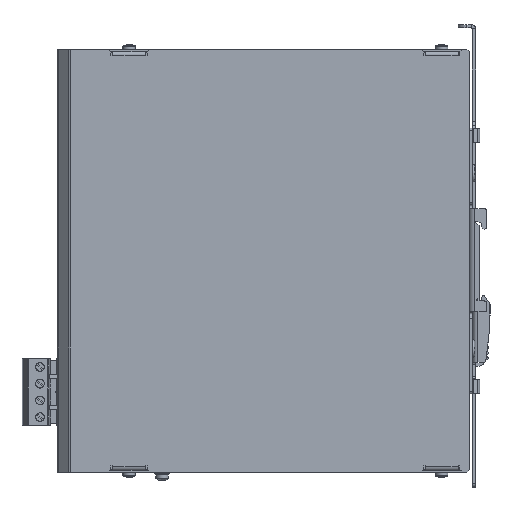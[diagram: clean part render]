
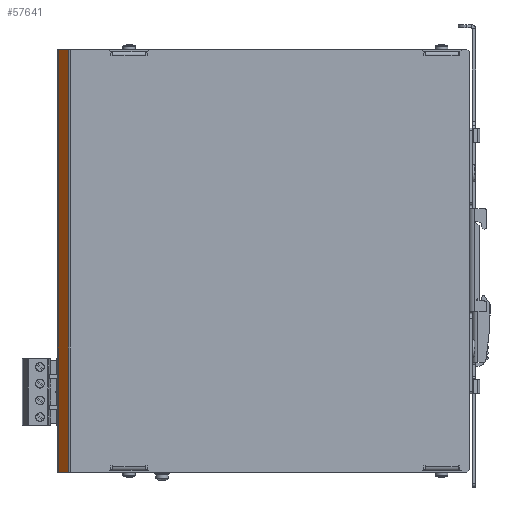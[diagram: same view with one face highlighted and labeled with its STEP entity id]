
A CAD part, left-side view. The second image highlights one B-rep face of the part: STEP entity #57641.
In plain terms, the highlighted planar face has unit normal (-0.707, 0.707, 0).
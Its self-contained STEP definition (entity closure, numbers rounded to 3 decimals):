
#4923=PLANE('',#61378);
#7115=FACE_OUTER_BOUND('',#10469,.T.);
#10469=EDGE_LOOP('',(#44750,#44751,#44752,#44753));
#15134=LINE('',#82450,#21325);
#15141=LINE('',#82467,#21332);
#15143=LINE('',#82473,#21334);
#15147=LINE('',#82486,#21338);
#21325=VECTOR('',#68306,10.);
#21332=VECTOR('',#68323,10.);
#21334=VECTOR('',#68331,10.);
#21338=VECTOR('',#68347,10.);
#27914=VERTEX_POINT('',#82447);
#27915=VERTEX_POINT('',#82449);
#27920=VERTEX_POINT('',#82466);
#27921=VERTEX_POINT('',#82472);
#34130=EDGE_CURVE('',#27914,#27915,#15134,.T.);
#34139=EDGE_CURVE('',#27920,#27915,#15141,.T.);
#34142=EDGE_CURVE('',#27921,#27920,#15143,.T.);
#34149=EDGE_CURVE('',#27921,#27914,#15147,.T.);
#44750=ORIENTED_EDGE('',*,*,#34130,.F.);
#44751=ORIENTED_EDGE('',*,*,#34149,.F.);
#44752=ORIENTED_EDGE('',*,*,#34142,.T.);
#44753=ORIENTED_EDGE('',*,*,#34139,.T.);
#57641=ADVANCED_FACE('',(#7115),#4923,.T.);
#61378=AXIS2_PLACEMENT_3D('',#82495,#68354,#68355);
#68306=DIRECTION('',(0.,0.,-1.));
#68323=DIRECTION('',(-0.707,-0.707,0.));
#68331=DIRECTION('',(0.,0.,-1.));
#68347=DIRECTION('',(-0.707,-0.707,0.));
#68354=DIRECTION('center_axis',(-0.707,0.707,0.));
#68355=DIRECTION('ref_axis',(0.,0.,
-1.));
#82447=CARTESIAN_POINT('',(-41.381,182.769,96.25));
#82449=CARTESIAN_POINT('',(-41.381,182.769,-96.25));
#82450=CARTESIAN_POINT('',(-41.381,182.769,0.));
#82466=CARTESIAN_POINT('',(-36.819,187.331,-96.25));
#82467=CARTESIAN_POINT('',(148.65,372.8,-96.25));
#82472=CARTESIAN_POINT('',(-36.819,187.331,96.25));
#82473=CARTESIAN_POINT('',(-36.819,187.331,0.));
#82486=CARTESIAN_POINT('',(148.65,372.8,96.25));
#82495=CARTESIAN_POINT('Origin',(-10.917,213.233,0.));
